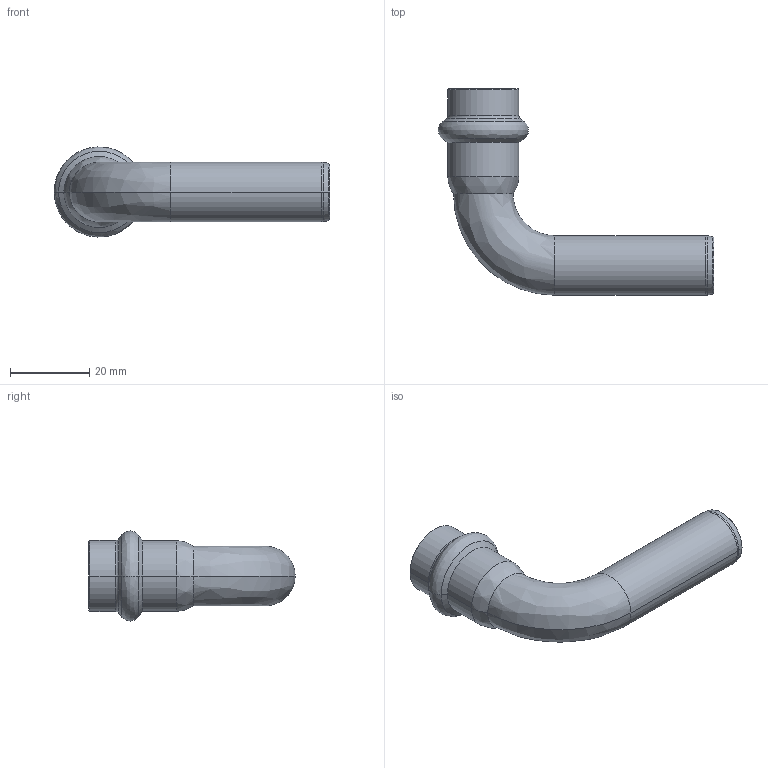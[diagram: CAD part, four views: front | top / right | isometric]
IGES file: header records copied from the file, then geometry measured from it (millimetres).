
Start section: Elysium IGES Interface
Global section: file name: C:\Users\Wallenburg\Desktop\3d modellen sudo\S-Pr VP\SP6001V\6001VW15.igs; native system: CoCreate Modeling 17.00A  17-Jun-2010; preprocessor: CoCreate IGES_3D V2.2; author: Unknown; organization: Unknown; date: 20130114.112607; units: millimetre
Bounding box: 69.34 x 51.93 x 22.67 mm (x, y, z)
Volume: 6669.9 mm3; surface area: 9957.5 mm2
Topology: 1 solids, 3 shells, 56 faces, 108 edges, 58 vertices
Faces by surface type: bspline 56
